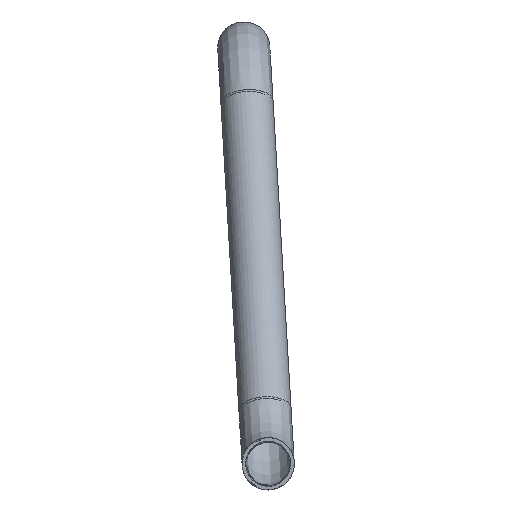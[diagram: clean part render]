
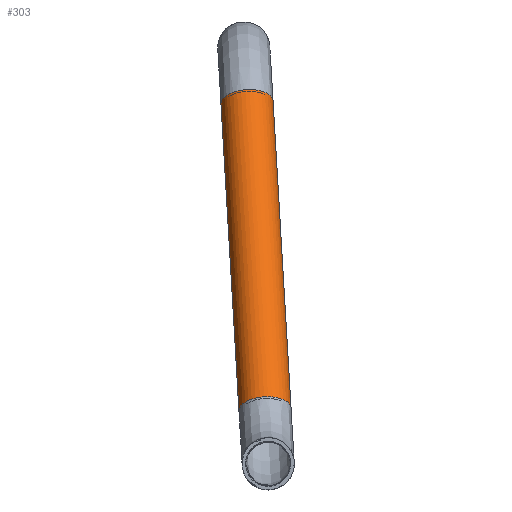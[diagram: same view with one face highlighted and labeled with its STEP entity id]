
A CAD part, left-side view. The second image highlights one B-rep face of the part: STEP entity #303.
In plain terms, the highlighted face is a extrusion surface.
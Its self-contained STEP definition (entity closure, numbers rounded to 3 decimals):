
#261=AXIS2_PLACEMENT_3D('Circle Axis2P3D',#259,#260,$) ;
#231=CARTESIAN_POINT('Vertex',(492.343,-1076.678,345.063)) ;
#241=CARTESIAN_POINT('Vertex',(493.465,-1098.639,345.718)) ;
#245=CARTESIAN_POINT('Control Point',(492.343,-1076.678,345.063)) ;
#246=CARTESIAN_POINT('Control Point',(454.062,-1077.988,366.715)) ;
#247=CARTESIAN_POINT('Control Point',(475.446,-1121.256,357.199)) ;
#248=CARTESIAN_POINT('Control Point',(513.727,-1119.946,335.547)) ;
#249=CARTESIAN_POINT('Control Point',(530.625,-1075.368,323.412)) ;
#250=CARTESIAN_POINT('Control Point',(492.343,-1076.678,345.063)) ;
#259=CARTESIAN_POINT('Axis2P3D Location',(492.904,-1087.658,345.391)) ;
#266=CARTESIAN_POINT('Line Origine',(528.814,-1072.886,409.758)) ;
#270=CARTESIAN_POINT('Vertex',(565.285,-1069.095,474.452)) ;
#273=CARTESIAN_POINT('Line Origine',(529.936,-1094.848,410.412)) ;
#277=CARTESIAN_POINT('Vertex',(566.406,-1091.057,475.106)) ;
#281=CARTESIAN_POINT('Control Point',(565.285,-1069.095,474.452)) ;
#282=CARTESIAN_POINT('Control Point',(563.781,-1069.146,475.302)) ;
#283=CARTESIAN_POINT('Control Point',(562.295,-1069.536,476.162)) ;
#284=CARTESIAN_POINT('Control Point',(560.904,-1070.263,476.989)) ;
#285=CARTESIAN_POINT('Control Point',(558.461,-1072.31,478.486)) ;
#286=CARTESIAN_POINT('Control Point',(556.901,-1075.287,479.539)) ;
#287=CARTESIAN_POINT('Control Point',(556.394,-1076.943,479.922)) ;
#288=CARTESIAN_POINT('Control Point',(555.98,-1080.413,480.359)) ;
#289=CARTESIAN_POINT('Control Point',(556.747,-1083.843,480.128)) ;
#290=CARTESIAN_POINT('Control Point',(557.421,-1085.459,479.843)) ;
#291=CARTESIAN_POINT('Control Point',(559.278,-1088.318,478.963)) ;
#292=CARTESIAN_POINT('Control Point',(561.922,-1090.192,477.583)) ;
#293=CARTESIAN_POINT('Control Point',(563.382,-1090.821,476.797)) ;
#294=CARTESIAN_POINT('Control Point',(564.903,-1091.108,475.957)) ;
#295=CARTESIAN_POINT('Control Point',(566.406,-1091.057,475.106)) ;
#260=DIRECTION('Axis2P3D Direction',(0.49,0.051,0.87)) ;
#263=DIRECTION('Vector Direction',(0.49,0.051,0.87)) ;
#267=DIRECTION('Vector Direction',(0.49,0.051,0.87)) ;
#274=DIRECTION('Vector Direction',(0.49,0.051,0.87)) ;
#264=VECTOR('Extrusion Surface Vector',#263,1.) ;
#268=VECTOR('Line Direction',#267,1.) ;
#275=VECTOR('Line Direction',#274,1.) ;
#298=ORIENTED_EDGE('',*,*,#272,.F.) ;
#299=ORIENTED_EDGE('',*,*,#251,.T.) ;
#300=ORIENTED_EDGE('',*,*,#279,.T.) ;
#301=ORIENTED_EDGE('',*,*,#296,.F.) ;
#303=ADVANCED_FACE('( + ) PartBody',(#302),#265,.T.) ;
#280=B_SPLINE_CURVE_WITH_KNOTS('',5,(#281,#282,#283,#284,#285,#286,#287,#288,#289,#290,#291,#292,#293,#294,#295),.UNSPECIFIED.,.F.,.U.,(6,3,3,3,6),(0.,8.639,17.279,25.918,34.558),.UNSPECIFIED.) ;
#262=CIRCLE('generated circle',#261,11.) ;
#251=EDGE_CURVE('',#232,#242,#244,.T.) ;
#272=EDGE_CURVE('',#232,#271,#269,.T.) ;
#279=EDGE_CURVE('',#242,#278,#276,.T.) ;
#296=EDGE_CURVE('',#271,#278,#280,.T.) ;
#297=EDGE_LOOP('',(#298,#299,#300,#301)) ;
#302=FACE_OUTER_BOUND('',#297,.T.) ;
#269=LINE('Line',#266,#268) ;
#276=LINE('Line',#273,#275) ;
#265=SURFACE_OF_LINEAR_EXTRUSION('generated tabulated cylinder',#262,#264) ;
#232=VERTEX_POINT('',#231) ;
#242=VERTEX_POINT('',#241) ;
#271=VERTEX_POINT('',#270) ;
#278=VERTEX_POINT('',#277) ;
#244=(BOUNDED_CURVE()B_SPLINE_CURVE(5,(#245,#246,#247,#248,#249,#250),.UNSPECIFIED.,.F.,.U.)B_SPLINE_CURVE_WITH_KNOTS((6,6),(0.,69.115),.UNSPECIFIED.)CURVE()GEOMETRIC_REPRESENTATION_ITEM()RATIONAL_B_SPLINE_CURVE((1.,0.2,0.2,0.2,0.2,1.))REPRESENTATION_ITEM('')) ;
